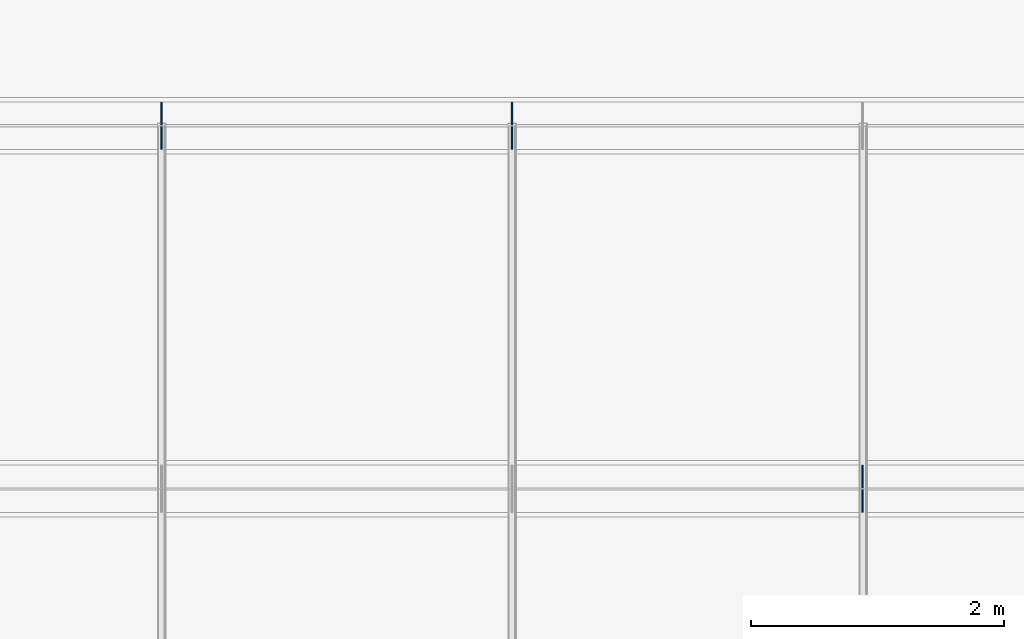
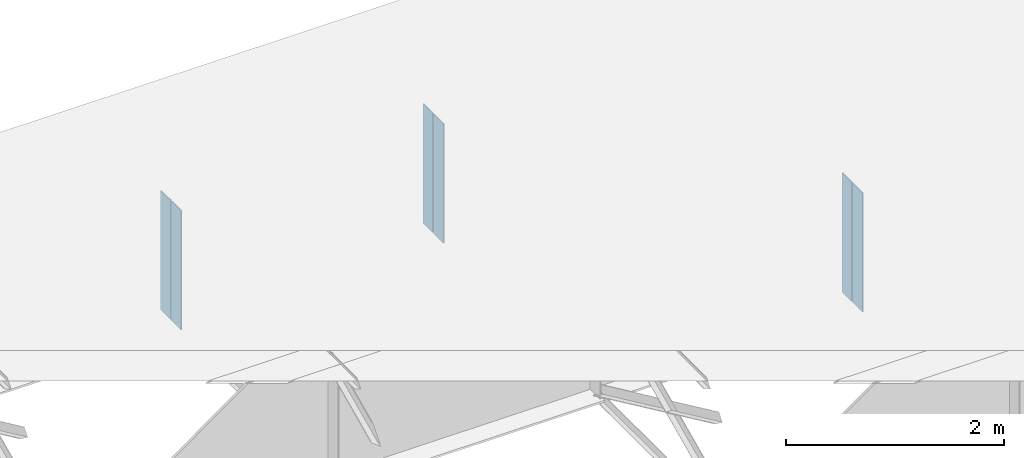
# One storey, part 6 of 8: 6 plates.
"""IFC4 building model written with IfcOpenShell, lengths in metres."""

from ifc_helpers import new_model, si_unit, frame, origin, origin_with_axes, origin_2d_with_axis, place, context, subcontext, project, spatial, rectangle, extrude, element, save


model = new_model("IFC4")

# Units and contexts
model_context = context("Model", 3, precision=1e-05, world=origin())
body_context = subcontext(model_context, "Body", "Model", "MODEL_VIEW")
ifc_project = project(units=[si_unit("LENGTHUNIT", "METRE"), si_unit("AREAUNIT", "SQUARE_METRE"), si_unit("VOLUMEUNIT", "CUBIC_METRE"), si_unit("PLANEANGLEUNIT", "RADIAN")], contexts=[model_context])

# Site, building, storey
site_placement = place(None, origin_with_axes())
site = spatial("IfcSite", under=ifc_project, at=site_placement, Name="Default Site")
building_placement = place(site_placement, origin_with_axes())
building = spatial("IfcBuilding", under=site, at=building_placement, Name="Bridge Structure")
storey_placement = place(building_placement, origin_with_axes())
storey = spatial("IfcBuildingStorey", under=building, at=storey_placement, Name="Superstructure")

# Plates
for number, where, z_axis, x_axis, name in (
    (1, (13.885, 0.09775, -0.6675), (0.0, 0.0, 1.0), (1.0, 0.0, 0.0), "Intermediate Stiffener 2"),
    (2, (13.885, -0.09775, -0.6675), (0.0, 0.0, 1.0), (1.0, 0.0, 0.0), "Intermediate Stiffener 2"),
    (3, (8.331, 2.97275, -0.6675), (0.0, 0.0, 1.0), (1.0, 0.0, 0.0), "Intermediate Stiffener 3"),
    (4, (8.331, 2.77725, -0.6675), (0.0, 0.0, 1.0), (1.0, 0.0, 0.0), "Intermediate Stiffener 3"),
    (5, (11.108, 2.97275, -0.6675), (0.0, 0.0, 1.0), (1.0, 0.0, 0.0), "Intermediate Stiffener 3"),
    (6, (11.108, 2.77725, -0.6675), (0.0, 0.0, 1.0), (1.0, 0.0, 0.0), "Intermediate Stiffener 3"),
):
    element("IfcPlate", number, at=place(storey_placement, frame(where, z_axis=z_axis, x_axis=x_axis)), inside=storey, Name=name, context=body_context, shape_type="SweptSolid", body=[
        extrude(rectangle(XDim=0.012, YDim=0.1795, at=origin_2d_with_axis()), origin_with_axes(), (0.0, 0.0, 1.0), 1.335),
    ])

save(model, "model.ifc")
